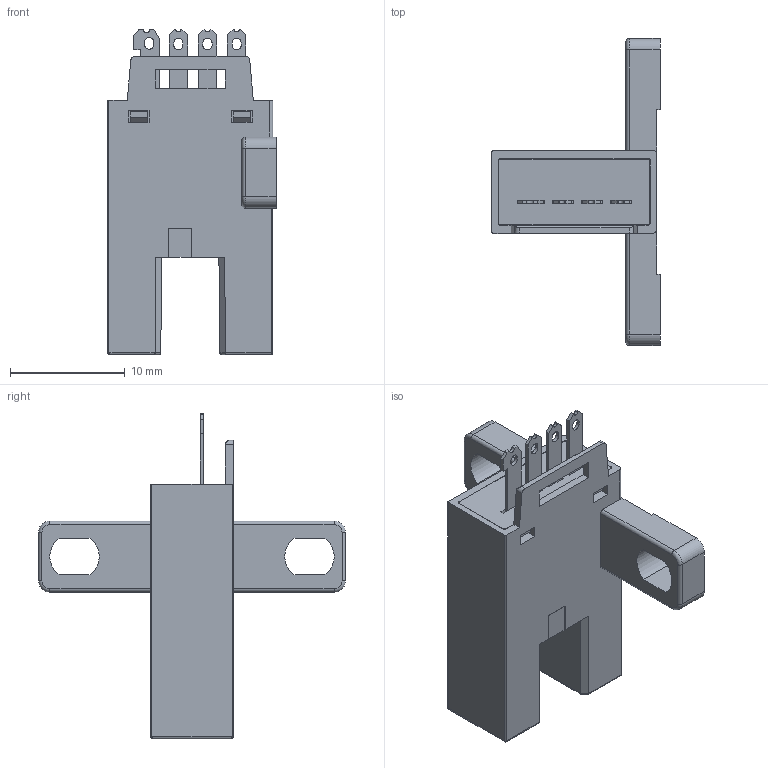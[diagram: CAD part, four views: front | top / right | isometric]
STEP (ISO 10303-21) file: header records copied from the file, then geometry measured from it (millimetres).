
FILE_DESCRIPTION(/* description */ (''),/* implementation_level */ '2;1');
FILE_NAME(/* name */ 'F:\HUAYIFENG\02)HUAYIFENG_3D_MODE\HUAYIFENG_3D_MODE_\X2\69FD578B51497535\X0\\LU68系列\LU682\LU682.stp',/* time_stamp */ '2019-04-03T22:10:44+08:00',/* author */ ('fengjiarun'),/* organization */ (''),/* preprocessor_version */ 'ST-DEVELOPER v16.5',/* originating_system */ 'Autodesk Inventor 2017',/* authorisation */ '');
FILE_SCHEMA (('AUTOMOTIVE_DESIGN { 1 0 10303 214 3 1 1 }'));
Length unit declared in the file: millimetre
Products named in the file (1): 零件336
Bounding box: 14.7 x 26.8 x 28.42 mm (x, y, z)
Volume: 300 mm3; surface area: 3740.9 mm2
Topology: 4 solids, 7 shells, 551 faces, 1549 edges, 1022 vertices
Faces by surface type: plane 451, cylinder 88, bspline 6, torus 4, sphere 2
Full cylindrical faces by diameter (mm): 0.7 x2, 1.5 x2
Entity records: 17902 total; most frequent: CARTESIAN_POINT 3483, ORIENTED_EDGE 3066, DIRECTION 2798, EDGE_CURVE 1541, LINE 1334, VECTOR 1334, VERTEX_POINT 1022, AXIS2_PLACEMENT_3D 732
